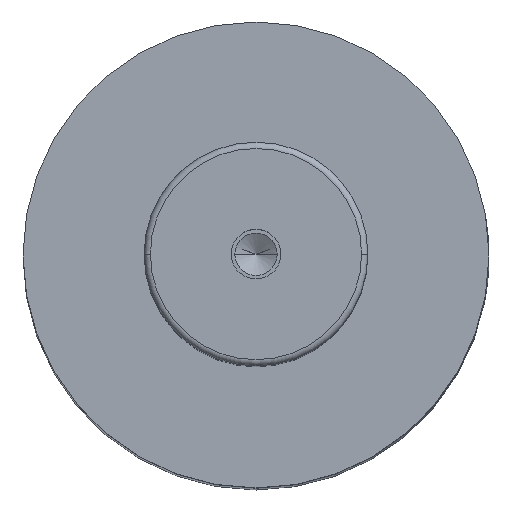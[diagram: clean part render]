
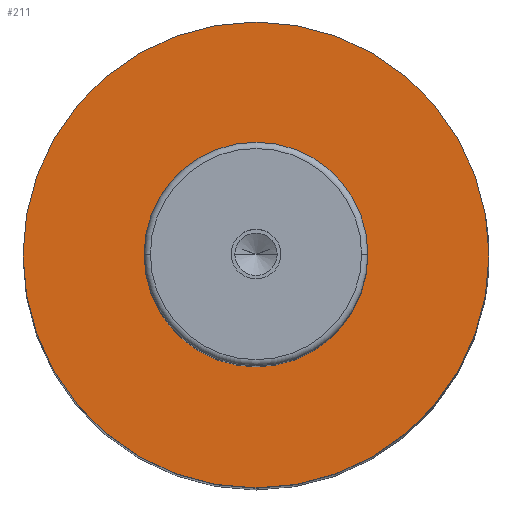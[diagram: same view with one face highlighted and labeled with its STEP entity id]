
A CAD part, top view. The second image highlights one B-rep face of the part: STEP entity #211.
In plain terms, the highlighted planar face has unit normal (0, 0, 1).
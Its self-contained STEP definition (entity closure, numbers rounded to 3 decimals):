
#109=PLANE('',#1266);
#138=FACE_BOUND('',#359,.T.);
#139=FACE_BOUND('',#360,.T.);
#211=ADVANCED_FACE('',(#138,#139),#109,.T.);
#359=EDGE_LOOP('',(#571,#572));
#360=EDGE_LOOP('',(#573,#574));
#451=CIRCLE('',#1260,18.);
#452=CIRCLE('',#1262,18.);
#453=CIRCLE('',#1264,37.5);
#454=CIRCLE('',#1265,37.5);
#571=ORIENTED_EDGE('',*,*,#970,.F.);
#572=ORIENTED_EDGE('',*,*,#971,.F.);
#573=ORIENTED_EDGE('',*,*,#969,.T.);
#574=ORIENTED_EDGE('',*,*,#967,.T.);
#856=VERTEX_POINT('',#1837);
#857=VERTEX_POINT('',#1839);
#858=VERTEX_POINT('',#1845);
#859=VERTEX_POINT('',#1846);
#967=EDGE_CURVE('',#857,#856,#451,.T.);
#969=EDGE_CURVE('',#856,#857,#452,.T.);
#970=EDGE_CURVE('',#858,#859,#453,.T.);
#971=EDGE_CURVE('',#859,#858,#454,.T.);
#1260=AXIS2_PLACEMENT_3D('',#1838,#1456,#1457);
#1262=AXIS2_PLACEMENT_3D('',#1842,#1461,#1462);
#1264=AXIS2_PLACEMENT_3D('',#1844,#1465,#1466);
#1265=AXIS2_PLACEMENT_3D('',#1847,#1467,#1468);
#1266=AXIS2_PLACEMENT_3D('',#1848,#1469,#1470);
#1456=DIRECTION('',(0.,0.,-1.));
#1457=DIRECTION('',(0.,1.,0.));
#1461=DIRECTION('',(0.,0.,-1.));
#1462=DIRECTION('',(0.,-1.,0.));
#1465=DIRECTION('',(0.,0.,-1.));
#1466=DIRECTION('',(0.,1.,0.));
#1467=DIRECTION('',(0.,0.,-1.));
#1468=DIRECTION('',(0.,-1.,0.));
#1469=DIRECTION('',(0.,0.,1.));
#1470=DIRECTION('',(0.,-1.,0.));
#1837=CARTESIAN_POINT('',(-18.,0.,187.));
#1838=CARTESIAN_POINT('',(0.,0.,187.));
#1839=CARTESIAN_POINT('',(18.,0.,187.));
#1842=CARTESIAN_POINT('',(0.,0.,187.));
#1844=CARTESIAN_POINT('',(0.,0.,187.));
#1845=CARTESIAN_POINT('',(37.5,0.,187.));
#1846=CARTESIAN_POINT('',(-37.5,0.,187.));
#1847=CARTESIAN_POINT('',(0.,0.,187.));
#1848=CARTESIAN_POINT('',(0.,0.,187.));
